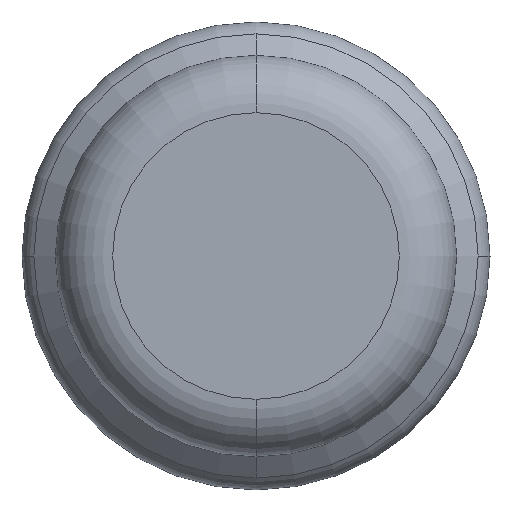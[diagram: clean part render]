
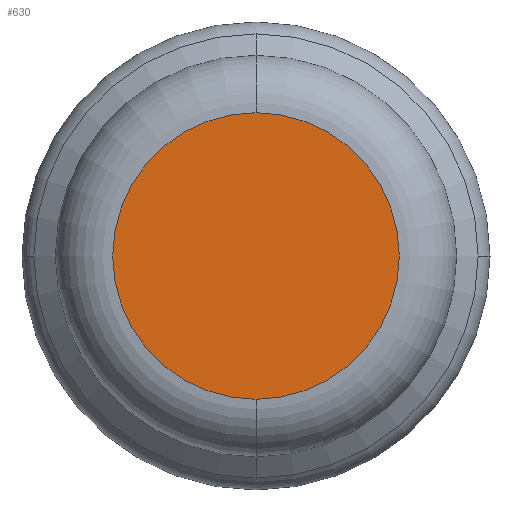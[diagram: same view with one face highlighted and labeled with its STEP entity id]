
A CAD part, front view. The second image highlights one B-rep face of the part: STEP entity #630.
In plain terms, the highlighted planar face has unit normal (0, -1, 0).
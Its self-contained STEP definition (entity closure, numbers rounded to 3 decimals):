
#430=CARTESIAN_POINT('',(22.95,-14.55,22.05));
#440=DIRECTION('',(0.,-1.,0.));
#450=DIRECTION('',(0.,0.,-1.));
#460=AXIS2_PLACEMENT_3D('',#430,#440,#450);
#470=PLANE('',#460);
#480=CARTESIAN_POINT('',(22.95,-14.55,0.));
#490=DIRECTION('',(0.,-1.,0.));
#500=DIRECTION('',(0.,0.,1.));
#510=AXIS2_PLACEMENT_3D('',#480,#490,#500);
#520=CIRCLE('',#510,16.35);
#530=CARTESIAN_POINT('',(22.95,-14.55,-16.35));
#540=VERTEX_POINT('',#530);
#550=CARTESIAN_POINT('',(22.95,-14.55,16.35));
#560=VERTEX_POINT('',#550);
#570=EDGE_CURVE('',#540,#560,#520,.T.);
#580=ORIENTED_EDGE('',*,*,#570,.T.);
#590=EDGE_CURVE('',#560,#540,#520,.T.);
#600=ORIENTED_EDGE('',*,*,#590,.T.);
#610=EDGE_LOOP('',(#600,#580));
#620=FACE_OUTER_BOUND('',#610,.T.);
#630=ADVANCED_FACE('',(#620),#470,.T.);
